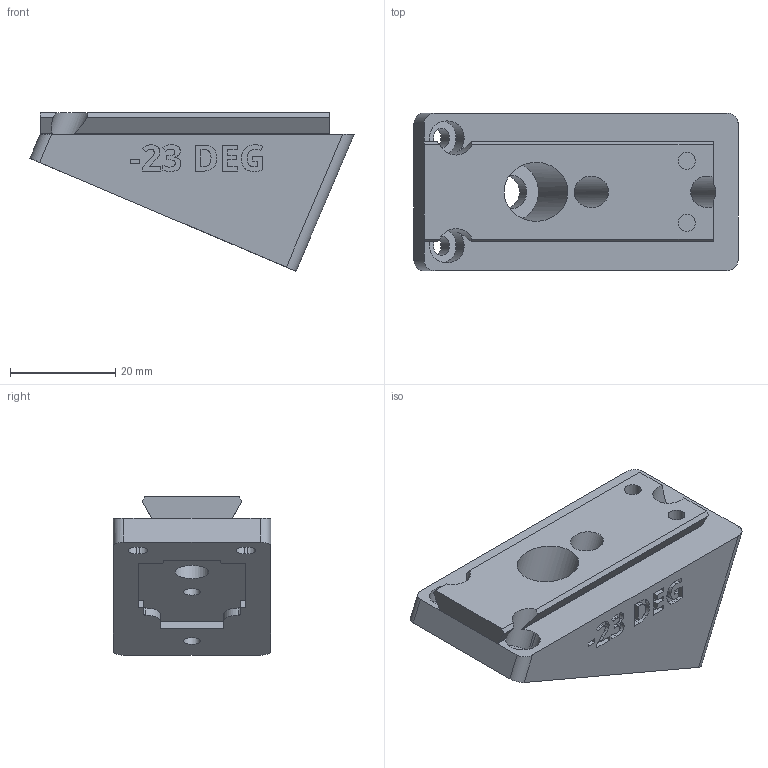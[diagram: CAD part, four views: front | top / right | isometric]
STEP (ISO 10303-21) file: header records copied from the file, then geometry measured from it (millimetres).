
FILE_DESCRIPTION(/* description */ ('STEP AP242 Edition 2','CAx-IF Rec.Pracs.---Representation and Presentation of Product Manufacturing Information (PMI)---4.0---2014-10-13','CAx-IF Rec.Pracs.---3D Tessellated Geometry---0.4---2014-09-14','2;1','CAx-IF Rec.Pracs.---User Defined Attributes---1.5---2016-08-15'),/* implementation_level */ '2;1');
FILE_NAME(/* name */ 'Camera Wedges - CAMERA MOUNTING WEDGE, NEG, -23 DEG',/* time_stamp */ '2026-07-08T20:35:47Z',/* author */ (''),/* organization */ (''),/* preprocessor_version */ 'ST-DEVELOPER v20',/* originating_system */ 'ONSHAPE BY PTC INC, 1.217',/* authorisation */ ' ');
FILE_SCHEMA (('AP242_MANAGED_MODEL_BASED_3D_ENGINEERING_MIM_LF { 1 0 10303 442 3 1 4 }'));
Length unit declared in the file: metre
Products named in the file (1): CAMERA MOUNTING WEDGE, NEG, -23 DEG
Bounding box: 61.69 x 30 x 30.15 mm (x, y, z)
Volume: 27378.8 mm3; surface area: 8863.3 mm2
Topology: 1 solids, 1 shells, 288 faces, 799 edges, 532 vertices
Faces by surface type: plane 150, bspline 80, cylinder 58
Full cylindrical faces by diameter (mm): 3.2 x4, 6 x2, 6.4 x1, 11.2 x1
Entity records: 9451 total; most frequent: CARTESIAN_POINT 2490, ORIENTED_EDGE 1580, DIRECTION 1179, EDGE_CURVE 790, VERTEX_POINT 531, LINE 499, VECTOR 499, AXIS2_PLACEMENT_3D 340
